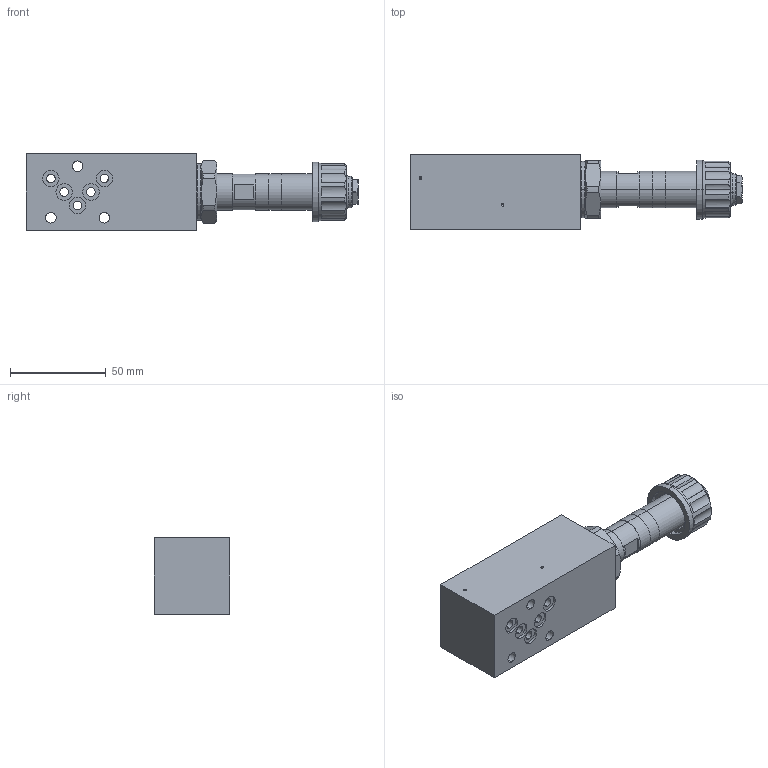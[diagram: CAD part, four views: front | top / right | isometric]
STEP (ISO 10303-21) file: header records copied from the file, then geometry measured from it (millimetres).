
FILE_DESCRIPTION (( 'STEP AP214' ), '1' );
FILE_NAME ('B.PSA04-B.STEP', '2017-03-23T14:55:43', ( '' ), ( '' ), 'SwSTEP 2.0', 'SolidWorks 2016', '' );
FILE_SCHEMA (( 'AUTOMOTIVE_DESIGN' ));
Length unit declared in the file: millimetre
Products named in the file (1): B.PSA04-B
Bounding box: 173.8 x 39.5 x 40 mm (x, y, z)
Volume: 168898.8 mm3; surface area: 32031.3 mm2
Topology: 2 solids, 2 shells, 376 faces, 941 edges, 605 vertices
Faces by surface type: plane 183, cylinder 103, cone 66, bspline 16, torus 6, sphere 2
Entity records: 16579 total; most frequent: CARTESIAN_POINT 3421, ORIENTED_EDGE 1874, DIRECTION 1849, EDGE_CURVE 937, AXIS2_PLACEMENT_3D 667, VERTEX_POINT 605, LINE 515, VECTOR 515
